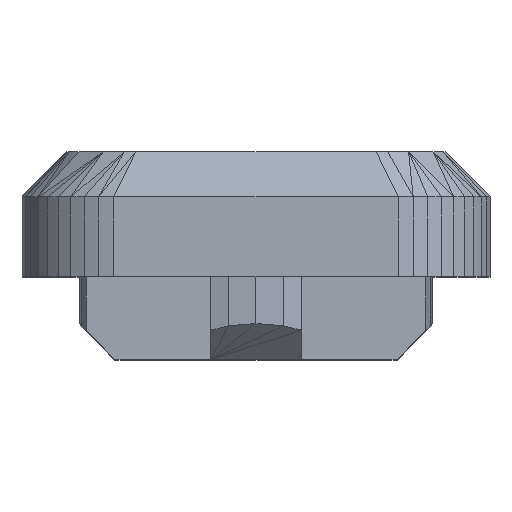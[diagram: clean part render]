
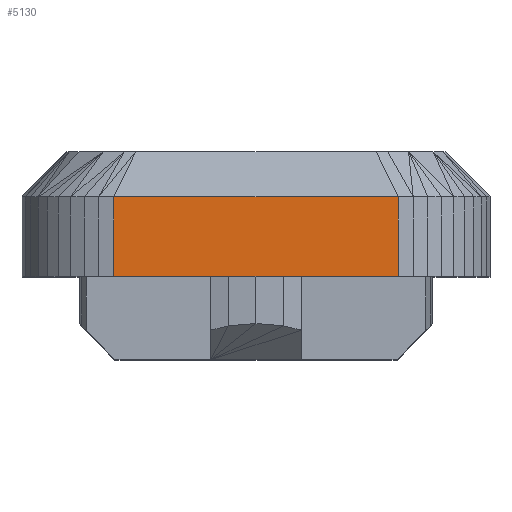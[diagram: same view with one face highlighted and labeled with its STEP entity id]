
A CAD part, top view. The second image highlights one B-rep face of the part: STEP entity #5130.
In plain terms, the highlighted planar face has unit normal (0, 0, 1).
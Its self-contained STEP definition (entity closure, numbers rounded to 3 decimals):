
#125 = PLANE('',#126);
#126 = AXIS2_PLACEMENT_3D('',#127,#128,#129);
#127 = CARTESIAN_POINT('',(4.412,63.22,
    -5.296));
#128 = DIRECTION('',(-0.,-1.,-0.));
#129 = DIRECTION('',(0.,0.,-1.));
#1713 = VERTEX_POINT('',#1714);
#1714 = CARTESIAN_POINT('',(4.171,63.22,
    -5.212));
#1728 = PLANE('',#1729);
#1729 = AXIS2_PLACEMENT_3D('',#1730,#1731,#1732);
#1730 = CARTESIAN_POINT('',(4.292,63.621,
    -5.239));
#1731 = DIRECTION('',(0.213,0.,0.977));
#1732 = DIRECTION('',(0.977,0.,-0.213));
#1740 = EDGE_CURVE('',#1713,#1741,#1743,.T.);
#1741 = VERTEX_POINT('',#1742);
#1742 = CARTESIAN_POINT('',(1.029,63.22,
    -5.212));
#1743 = SURFACE_CURVE('',#1744,(#1748,#1755),.PCURVE_S1.);
#1744 = LINE('',#1745,#1746);
#1745 = CARTESIAN_POINT('',(4.171,63.22,
    -5.212));
#1746 = VECTOR('',#1747,1.);
#1747 = DIRECTION('',(-1.,0.,0.));
#1748 = PCURVE('',#125,#1749);
#1749 = DEFINITIONAL_REPRESENTATION('',(#1750),#1754);
#1750 = LINE('',#1751,#1752);
#1751 = CARTESIAN_POINT('',(-0.083,-0.241));
#1752 = VECTOR('',#1753,1.);
#1753 = DIRECTION('',(0.,-1.));
#1754 = ( GEOMETRIC_REPRESENTATION_CONTEXT(2) 
PARAMETRIC_REPRESENTATION_CONTEXT() REPRESENTATION_CONTEXT('2D SPACE',''
  ) );
#1755 = PCURVE('',#1756,#1761);
#1756 = PLANE('',#1757);
#1757 = AXIS2_PLACEMENT_3D('',#1758,#1759,#1760);
#1758 = CARTESIAN_POINT('',(2.41,63.85,
    -5.212));
#1759 = DIRECTION('',(0.,0.,1.));
#1760 = DIRECTION('',(1.,0.,-0.));
#1761 = DEFINITIONAL_REPRESENTATION('',(#1762),#1766);
#1762 = LINE('',#1763,#1764);
#1763 = CARTESIAN_POINT('',(1.761,-0.63));
#1764 = VECTOR('',#1765,1.);
#1765 = DIRECTION('',(-1.,0.));
#1766 = ( GEOMETRIC_REPRESENTATION_CONTEXT(2) 
PARAMETRIC_REPRESENTATION_CONTEXT() REPRESENTATION_CONTEXT('2D SPACE',''
  ) );
#1784 = PLANE('',#1785);
#1785 = AXIS2_PLACEMENT_3D('',#1786,#1787,#1788);
#1786 = CARTESIAN_POINT('',(0.908,63.621,
    -5.239));
#1787 = DIRECTION('',(-0.213,0.,0.977));
#1788 = DIRECTION('',(0.977,0.,0.213));
#3676 = PLANE('',#3677);
#3677 = AXIS2_PLACEMENT_3D('',#3678,#3679,#3680);
#3678 = CARTESIAN_POINT('',(2.495,64.236,
    -5.347));
#3679 = DIRECTION('',(0.,0.705,0.709));
#3680 = DIRECTION('',(0.,0.709,-0.705));
#4732 = EDGE_CURVE('',#1741,#4733,#4735,.T.);
#4733 = VERTEX_POINT('',#4734);
#4734 = CARTESIAN_POINT('',(1.029,64.1,
    -5.212));
#4735 = SURFACE_CURVE('',#4736,(#4740,#4747),.PCURVE_S1.);
#4736 = LINE('',#4737,#4738);
#4737 = CARTESIAN_POINT('',(1.029,63.22,
    -5.212));
#4738 = VECTOR('',#4739,1.);
#4739 = DIRECTION('',(0.,1.,0.));
#4740 = PCURVE('',#1784,#4741);
#4741 = DEFINITIONAL_REPRESENTATION('',(#4742),#4746);
#4742 = LINE('',#4743,#4744);
#4743 = CARTESIAN_POINT('',(0.124,-0.401));
#4744 = VECTOR('',#4745,1.);
#4745 = DIRECTION('',(0.,1.));
#4746 = ( GEOMETRIC_REPRESENTATION_CONTEXT(2) 
PARAMETRIC_REPRESENTATION_CONTEXT() REPRESENTATION_CONTEXT('2D SPACE',''
  ) );
#4747 = PCURVE('',#1756,#4748);
#4748 = DEFINITIONAL_REPRESENTATION('',(#4749),#4753);
#4749 = LINE('',#4750,#4751);
#4750 = CARTESIAN_POINT('',(-1.381,-0.63));
#4751 = VECTOR('',#4752,1.);
#4752 = DIRECTION('',(0.,1.));
#4753 = ( GEOMETRIC_REPRESENTATION_CONTEXT(2) 
PARAMETRIC_REPRESENTATION_CONTEXT() REPRESENTATION_CONTEXT('2D SPACE',''
  ) );
#5130 = ADVANCED_FACE('',(#5131),#1756,.T.);
#5131 = FACE_BOUND('',#5132,.T.);
#5132 = EDGE_LOOP('',(#5133,#5156,#5157,#5158));
#5133 = ORIENTED_EDGE('',*,*,#5134,.T.);
#5134 = EDGE_CURVE('',#5135,#4733,#5137,.T.);
#5135 = VERTEX_POINT('',#5136);
#5136 = CARTESIAN_POINT('',(4.171,64.1,
    -5.212));
#5137 = SURFACE_CURVE('',#5138,(#5142,#5149),.PCURVE_S1.);
#5138 = LINE('',#5139,#5140);
#5139 = CARTESIAN_POINT('',(4.171,64.1,
    -5.212));
#5140 = VECTOR('',#5141,1.);
#5141 = DIRECTION('',(-1.,0.,0.));
#5142 = PCURVE('',#1756,#5143);
#5143 = DEFINITIONAL_REPRESENTATION('',(#5144),#5148);
#5144 = LINE('',#5145,#5146);
#5145 = CARTESIAN_POINT('',(1.761,0.25));
#5146 = VECTOR('',#5147,1.);
#5147 = DIRECTION('',(-1.,0.));
#5148 = ( GEOMETRIC_REPRESENTATION_CONTEXT(2) 
PARAMETRIC_REPRESENTATION_CONTEXT() REPRESENTATION_CONTEXT('2D SPACE',''
  ) );
#5149 = PCURVE('',#3676,#5150);
#5150 = DEFINITIONAL_REPRESENTATION('',(#5151),#5155);
#5151 = LINE('',#5152,#5153);
#5152 = CARTESIAN_POINT('',(-0.191,-1.675));
#5153 = VECTOR('',#5154,1.);
#5154 = DIRECTION('',(0.,1.));
#5155 = ( GEOMETRIC_REPRESENTATION_CONTEXT(2) 
PARAMETRIC_REPRESENTATION_CONTEXT() REPRESENTATION_CONTEXT('2D SPACE',''
  ) );
#5156 = ORIENTED_EDGE('',*,*,#4732,.F.);
#5157 = ORIENTED_EDGE('',*,*,#1740,.F.);
#5158 = ORIENTED_EDGE('',*,*,#5159,.T.);
#5159 = EDGE_CURVE('',#1713,#5135,#5160,.T.);
#5160 = SURFACE_CURVE('',#5161,(#5165,#5172),.PCURVE_S1.);
#5161 = LINE('',#5162,#5163);
#5162 = CARTESIAN_POINT('',(4.171,63.22,
    -5.212));
#5163 = VECTOR('',#5164,1.);
#5164 = DIRECTION('',(0.,1.,0.));
#5165 = PCURVE('',#1756,#5166);
#5166 = DEFINITIONAL_REPRESENTATION('',(#5167),#5171);
#5167 = LINE('',#5168,#5169);
#5168 = CARTESIAN_POINT('',(1.761,-0.63));
#5169 = VECTOR('',#5170,1.);
#5170 = DIRECTION('',(0.,1.));
#5171 = ( GEOMETRIC_REPRESENTATION_CONTEXT(2) 
PARAMETRIC_REPRESENTATION_CONTEXT() REPRESENTATION_CONTEXT('2D SPACE',''
  ) );
#5172 = PCURVE('',#1728,#5173);
#5173 = DEFINITIONAL_REPRESENTATION('',(#5174),#5178);
#5174 = LINE('',#5175,#5176);
#5175 = CARTESIAN_POINT('',(-0.124,-0.401));
#5176 = VECTOR('',#5177,1.);
#5177 = DIRECTION('',(0.,1.));
#5178 = ( GEOMETRIC_REPRESENTATION_CONTEXT(2) 
PARAMETRIC_REPRESENTATION_CONTEXT() REPRESENTATION_CONTEXT('2D SPACE',''
  ) );
